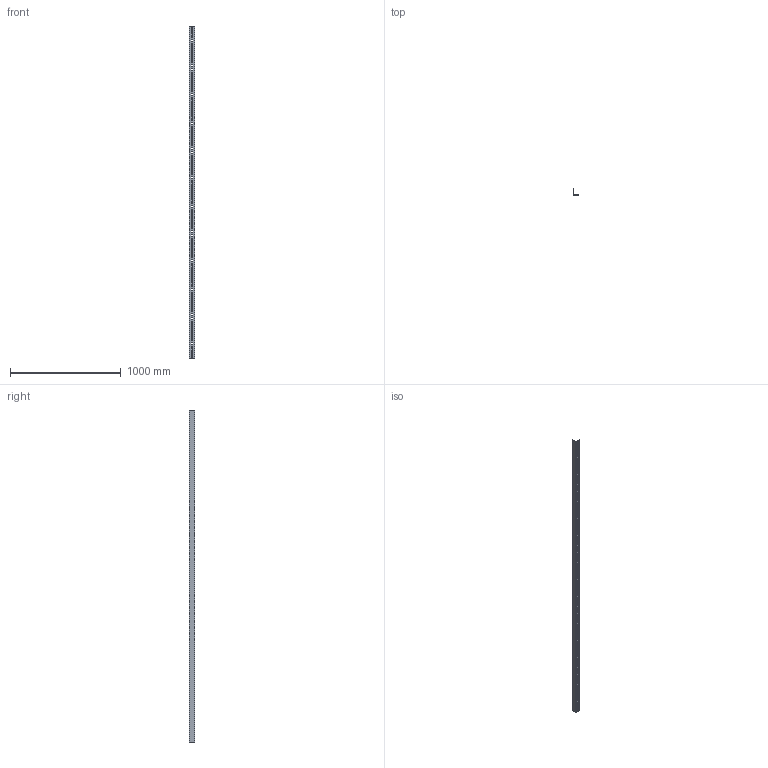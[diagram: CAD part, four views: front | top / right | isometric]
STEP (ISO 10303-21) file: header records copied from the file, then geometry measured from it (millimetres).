
FILE_DESCRIPTION (( 'STEP AP203' ), '1' );
FILE_NAME ('EF5000.STEP', '2024-09-09T20:53:41', ( '' ), ( '' ), 'SwSTEP 2.0', 'SolidWorks 2023', '' );
FILE_SCHEMA (( 'CONFIG_CONTROL_DESIGN' ));
Length unit declared in the file: millimetre
Products named in the file (1): EF5000
Bounding box: 50 x 50 x 3000 mm (x, y, z)
Volume: 810954.2 mm3; surface area: 551799.5 mm2
Topology: 1 solids, 1 shells, 410 faces, 1224 edges, 816 vertices
Faces by surface type: cylinder 243, plane 167
Entity records: 14371 total; most frequent: DIRECTION 2532, CARTESIAN_POINT 2451, ORIENTED_EDGE 2448, EDGE_CURVE 1224, AXIS2_PLACEMENT_3D 897, VERTEX_POINT 816, LINE 738, VECTOR 738
